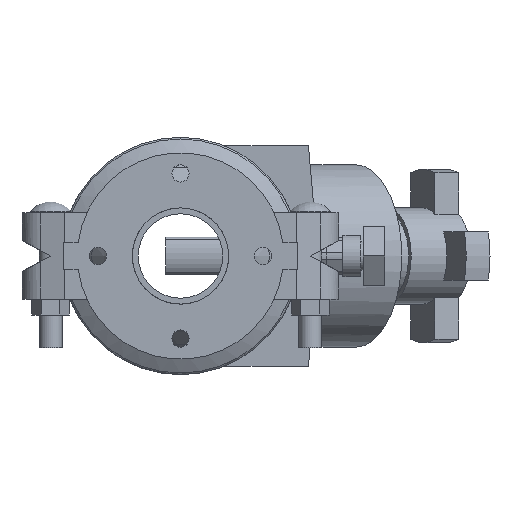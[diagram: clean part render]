
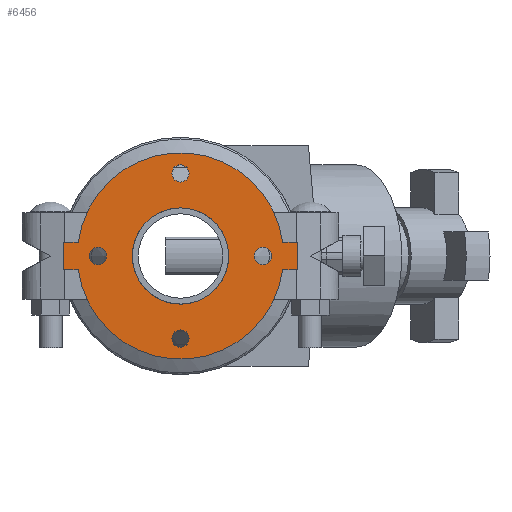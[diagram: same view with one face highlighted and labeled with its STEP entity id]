
A CAD part, front view. The second image highlights one B-rep face of the part: STEP entity #6456.
In plain terms, the highlighted planar face has unit normal (0, -1, 0) as drawn and (0, 0, 1) by its records, which use the part's own axes.
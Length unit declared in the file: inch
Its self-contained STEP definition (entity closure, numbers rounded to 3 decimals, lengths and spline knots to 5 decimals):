
#175=FACE_BOUND('',#821,.T.);
#176=FACE_BOUND('',#822,.T.);
#177=FACE_BOUND('',#823,.T.);
#178=FACE_BOUND('',#824,.T.);
#179=FACE_BOUND('',#825,.T.);
#245=PLANE('',#7025);
#461=FACE_OUTER_BOUND('',#820,.T.);
#820=EDGE_LOOP('',(#4182,#4183,#4184,#4185,#4186,#4187,#4188,#4189));
#821=EDGE_LOOP('',(#4190));
#822=EDGE_LOOP('',(#4191));
#823=EDGE_LOOP('',(#4192));
#824=EDGE_LOOP('',(#4193));
#825=EDGE_LOOP('',(#4194,#4195));
#1239=LINE('',#9852,#1726);
#1240=LINE('',#9855,#1727);
#1243=LINE('',#9860,#1730);
#1244=LINE('',#9863,#1731);
#1246=LINE('',#9866,#1733);
#1247=LINE('',#9868,#1734);
#1726=VECTOR('',#7831,0.3937);
#1727=VECTOR('',#7834,0.3937);
#1730=VECTOR('',#7839,0.3937);
#1731=VECTOR('',#7842,0.3937);
#1733=VECTOR('',#7846,0.3937);
#1734=VECTOR('',#7849,0.3937);
#2197=CIRCLE('',#6996,0.3125);
#2199=CIRCLE('',#6999,0.3125);
#2201=CIRCLE('',#7002,0.3125);
#2203=CIRCLE('',#7005,0.3125);
#2209=CIRCLE('',#7013,3.75);
#2210=CIRCLE('',#7015,1.75);
#2211=CIRCLE('',#7016,1.75);
#2212=CIRCLE('',#7018,3.75);
#2564=VERTEX_POINT('',#9787);
#2566=VERTEX_POINT('',#9793);
#2568=VERTEX_POINT('',#9799);
#2570=VERTEX_POINT('',#9805);
#2582=VERTEX_POINT('',#9832);
#2583=VERTEX_POINT('',#9834);
#2584=VERTEX_POINT('',#9838);
#2585=VERTEX_POINT('',#9840);
#2586=VERTEX_POINT('',#9844);
#2587=VERTEX_POINT('',#9846);
#2588=VERTEX_POINT('',#9850);
#2589=VERTEX_POINT('',#9854);
#2590=VERTEX_POINT('',#9858);
#2591=VERTEX_POINT('',#9862);
#3191=EDGE_CURVE('',#2564,#2564,#2197,.T.);
#3194=EDGE_CURVE('',#2566,#2566,#2199,.T.);
#3197=EDGE_CURVE('',#2568,#2568,#2201,.T.);
#3200=EDGE_CURVE('',#2570,#2570,#2203,.T.);
#3215=EDGE_CURVE('',#2582,#2583,#2209,.T.);
#3217=EDGE_CURVE('',#2585,#2584,#2210,.T.);
#3218=EDGE_CURVE('',#2584,#2585,#2211,.T.);
#3220=EDGE_CURVE('',#2587,#2586,#2212,.T.);
#3223=EDGE_CURVE('',#2583,#2588,#1239,.T.);
#3224=EDGE_CURVE('',#2589,#2587,#1240,.T.);
#3227=EDGE_CURVE('',#2586,#2590,#1243,.T.);
#3228=EDGE_CURVE('',#2591,#2582,#1244,.T.);
#3230=EDGE_CURVE('',#2590,#2591,#1246,.T.);
#3231=EDGE_CURVE('',#2588,#2589,#1247,.T.);
#4182=ORIENTED_EDGE('',*,*,#3227,.T.);
#4183=ORIENTED_EDGE('',*,*,#3230,.T.);
#4184=ORIENTED_EDGE('',*,*,#3228,.T.);
#4185=ORIENTED_EDGE('',*,*,#3215,.T.);
#4186=ORIENTED_EDGE('',*,*,#3223,.T.);
#4187=ORIENTED_EDGE('',*,*,#3231,.T.);
#4188=ORIENTED_EDGE('',*,*,#3224,.T.);
#4189=ORIENTED_EDGE('',*,*,#3220,.T.);
#4190=ORIENTED_EDGE('',*,*,#3191,.T.);
#4191=ORIENTED_EDGE('',*,*,#3194,.T.);
#4192=ORIENTED_EDGE('',*,*,#3197,.T.);
#4193=ORIENTED_EDGE('',*,*,#3200,.T.);
#4194=ORIENTED_EDGE('',*,*,#3217,.T.);
#4195=ORIENTED_EDGE('',*,*,#3218,.T.);
#6456=ADVANCED_FACE('',(#461,#175,#176,#177,#178,#179),#245,.T.);
#6996=AXIS2_PLACEMENT_3D('',#9788,#7767,#7768);
#6999=AXIS2_PLACEMENT_3D('',#9794,#7774,#7775);
#7002=AXIS2_PLACEMENT_3D('',#9800,#7781,#7782);
#7005=AXIS2_PLACEMENT_3D('',#9806,#7788,#7789);
#7013=AXIS2_PLACEMENT_3D('',#9836,#7813,#7814);
#7015=AXIS2_PLACEMENT_3D('',#9841,#7818,#7819);
#7016=AXIS2_PLACEMENT_3D('',#9842,#7820,#7821);
#7018=AXIS2_PLACEMENT_3D('',#9847,#7825,#7826);
#7025=AXIS2_PLACEMENT_3D('',#9869,#7850,#7851);
#7767=DIRECTION('center_axis',(0.,0.,-1.));
#7768=DIRECTION('ref_axis',(0.,1.,0.));
#7774=DIRECTION('center_axis',(0.,0.,-1.));
#7775=DIRECTION('ref_axis',(1.,0.,0.));
#7781=DIRECTION('center_axis',(0.,0.,-1.));
#7782=DIRECTION('ref_axis',(0.,-1.,0.));
#7788=DIRECTION('center_axis',(0.,0.,-1.));
#7789=DIRECTION('ref_axis',(-1.,0.,0.));
#7813=DIRECTION('center_axis',(0.,0.,1.));
#7814=DIRECTION('ref_axis',(-1.,0.,0.));
#7818=DIRECTION('center_axis',(0.,0.,-1.));
#7819=DIRECTION('ref_axis',(-1.,0.,0.));
#7820=DIRECTION('center_axis',(0.,0.,-1.));
#7821=DIRECTION('ref_axis',(-1.,0.,0.));
#7825=DIRECTION('center_axis',(0.,0.,1.));
#7826=DIRECTION('ref_axis',(-1.,0.,0.));
#7831=DIRECTION('',(0.,1.,0.));
#7834=DIRECTION('',(0.,-1.,0.));
#7839=DIRECTION('',(0.,-1.,0.));
#7842=DIRECTION('',(0.,1.,0.));
#7846=DIRECTION('',(1.,0.,0.));
#7849=DIRECTION('',(-1.,0.,0.));
#7850=DIRECTION('center_axis',(0.,0.,1.));
#7851=DIRECTION('ref_axis',(1.,0.,0.));
#9787=CARTESIAN_POINT('',(0.,2.6875,0.5));
#9788=CARTESIAN_POINT('Origin',(0.,3.,0.5));
#9793=CARTESIAN_POINT('',(2.6875,0.,0.5));
#9794=CARTESIAN_POINT('Origin',(3.,0.,0.5));
#9799=CARTESIAN_POINT('',(0.,-2.6875,0.5));
#9800=CARTESIAN_POINT('Origin',(0.,-3.,0.5));
#9805=CARTESIAN_POINT('',(-2.6875,0.,0.5));
#9806=CARTESIAN_POINT('Origin',(-3.,0.,0.5));
#9832=CARTESIAN_POINT('',(0.5,-3.71652,0.5));
#9834=CARTESIAN_POINT('',(0.5,3.71652,0.5));
#9836=CARTESIAN_POINT('Origin',(0.,0.,0.5));
#9838=CARTESIAN_POINT('',(1.75,0.,0.5));
#9840=CARTESIAN_POINT('',(0.5,1.67705,0.5));
#9841=CARTESIAN_POINT('Origin',(0.,0.,0.5));
#9842=CARTESIAN_POINT('Origin',(0.,0.,0.5));
#9844=CARTESIAN_POINT('',(-0.5,-3.71652,0.5));
#9846=CARTESIAN_POINT('',(-0.5,3.71652,0.5));
#9847=CARTESIAN_POINT('Origin',(0.,0.,0.5));
#9850=CARTESIAN_POINT('',(0.5,4.25,0.5));
#9852=CARTESIAN_POINT('',(0.5,4.25,0.5));
#9854=CARTESIAN_POINT('',(-0.5,4.25,0.5));
#9855=CARTESIAN_POINT('',(-0.5,-4.25,0.5));
#9858=CARTESIAN_POINT('',(-0.5,-4.25,0.5));
#9860=CARTESIAN_POINT('',(-0.5,-4.25,0.5));
#9862=CARTESIAN_POINT('',(0.5,-4.25,0.5));
#9863=CARTESIAN_POINT('',(0.5,4.25,0.5));
#9866=CARTESIAN_POINT('',(0.5,-4.25,0.5));
#9868=CARTESIAN_POINT('',(-0.5,4.25,0.5));
#9869=CARTESIAN_POINT('Origin',(0.,0.,0.5));
